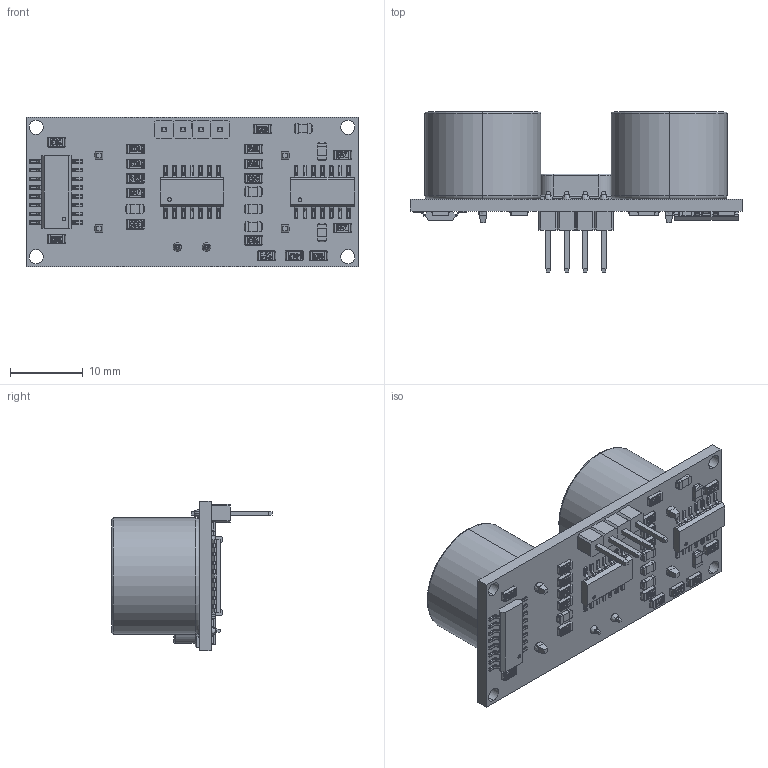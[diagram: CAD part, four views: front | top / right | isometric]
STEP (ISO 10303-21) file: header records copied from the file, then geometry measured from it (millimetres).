
FILE_DESCRIPTION (( 'STEP AP214' ), '1' );
FILE_NAME ('HC-SR04.STEP', '2020-05-23T06:40:54', ( '' ), ( '' ), 'SwSTEP 2.0', 'SolidWorks 2016', '' );
FILE_SCHEMA (( 'AUTOMOTIVE_DESIGN' ));
Length unit declared in the file: millimetre
Products named in the file (18): Emitter; smdResistor103; HC-SR04; HC-SR04board; smdChip16pin; CrystalOscillator; headerMale; smdChip14pin; smdResistor622; smdResistor392; solder; smdResistor563; smdceramiccapacitor; smdResistor102; smdResistor335; smdResistor124; smdResistor412; smdResistor753
Assembly tree (45 placements, depth 2):
  HC-SR04
    HC-SR04board
    solder  x10
    Emitter  x2
    CrystalOscillator
    smdChip14pin  x2
    smdChip16pin
    smdceramiccapacitor  x7
    smdResistor753  x3
    smdResistor392
    smdResistor103  x6
    smdResistor124  x2
    smdResistor335
    smdResistor102
    smdResistor563
    smdResistor622
    smdResistor412
    headerMale  x4
Bounding box: 45.5 x 21.95 x 20.5 mm (x, y, z)
Volume: 4010.8 mm3; surface area: 7380.1 mm2
Topology: 146 solids, 146 shells, 5406 faces, 14235 edges, 9164 vertices
Faces by surface type: plane 3616, cylinder 810, bspline 662, torus 226, sphere 88, cone 4
Entity records: 132641 total; most frequent: CARTESIAN_POINT 38592, ORIENTED_EDGE 16054, DIRECTION 13655, EDGE_CURVE 8027, VECTOR 6031, LINE 6031, VERTEX_POINT 5183, AXIS2_PLACEMENT_3D 3812
